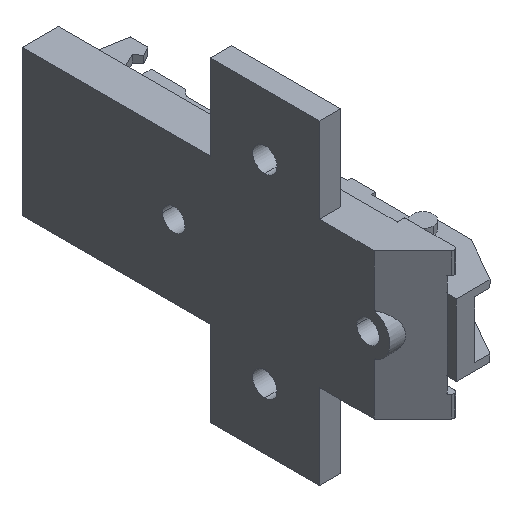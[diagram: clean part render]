
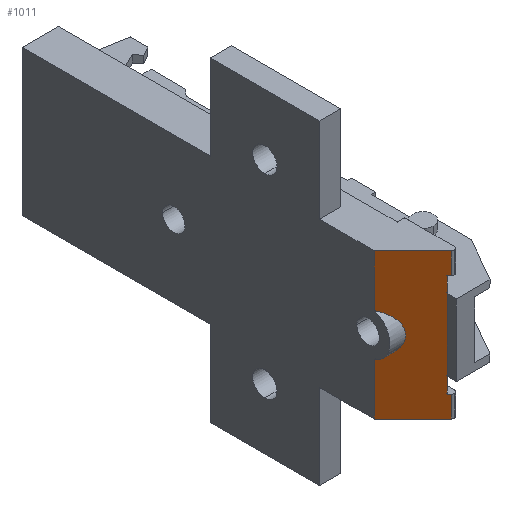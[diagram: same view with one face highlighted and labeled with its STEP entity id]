
A CAD part, isometric view. The second image highlights one B-rep face of the part: STEP entity #1011.
In plain terms, the highlighted planar face has unit normal (-0.707, -0.707, 0).
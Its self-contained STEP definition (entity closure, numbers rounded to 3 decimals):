
#99 = LINE ( 'NONE', #101, #2758 ) ;
#101 = CARTESIAN_POINT ( 'NONE',  ( 6., -24.007, -12. ) ) ;
#102 = DIRECTION ( 'NONE',  ( 0., 0., 1. ) ) ;
#131 =( BOUNDED_CURVE ( )  B_SPLINE_CURVE ( 3, ( #995, #1004, #1191, #1192 ),
 .UNSPECIFIED., .F., .T. ) 
 B_SPLINE_CURVE_WITH_KNOTS ( ( 4, 4 ),
 ( 1.854, 4.429 ),
 .UNSPECIFIED. ) 
 CURVE ( )  GEOMETRIC_REPRESENTATION_ITEM ( )  RATIONAL_B_SPLINE_CURVE ( ( 1., 0.52, 0.52, 1. ) ) 
 REPRESENTATION_ITEM ( '' )  );
#173 = EDGE_CURVE ( 'NONE', #570, #590, #99, .T. ) ;
#185 = EDGE_CURVE ( 'NONE', #1767, #650, #1075, .T. ) ;
#201 = EDGE_CURVE ( 'NONE', #648, #657, #1116, .T. ) ;
#203 = EDGE_CURVE ( 'NONE', #575, #643, #1122, .T. ) ;
#232 = EDGE_CURVE ( 'NONE', #540, #648, #3180, .T. ) ;
#259 = VECTOR ( 'NONE', #993, 1000. ) ;
#267 = VECTOR ( 'NONE', #966, 1000. ) ;
#311 = VECTOR ( 'NONE', #1201, 1000. ) ;
#345 = VECTOR ( 'NONE', #934, 1000. ) ;
#443 = VECTOR ( 'NONE', #1198, 1000. ) ;
#515 = VECTOR ( 'NONE', #1195, 1000. ) ;
#540 = VERTEX_POINT ( 'NONE', #3193 ) ;
#570 = VERTEX_POINT ( 'NONE', #3223 ) ;
#575 = VERTEX_POINT ( 'NONE', #3228 ) ;
#590 = VERTEX_POINT ( 'NONE', #3243 ) ;
#594 = VERTEX_POINT ( 'NONE', #3247 ) ;
#643 = VERTEX_POINT ( 'NONE', #3296 ) ;
#648 = VERTEX_POINT ( 'NONE', #3301 ) ;
#650 = VERTEX_POINT ( 'NONE', #3303 ) ;
#657 = VERTEX_POINT ( 'NONE', #3310 ) ;
#932 = LINE ( 'NONE', #933, #345 ) ;
#933 = CARTESIAN_POINT ( 'NONE',  ( 6.347, -24.354, -12. ) ) ;
#934 = DIRECTION ( 'NONE',  ( 0., 0., 1. ) ) ;
#954 = LINE ( 'NONE', #965, #267 ) ;
#965 = CARTESIAN_POINT ( 'NONE',  ( 6.347, -24.354, -12. ) ) ;
#966 = DIRECTION ( 'NONE',  ( 0., 0., 1. ) ) ;
#968 = LINE ( 'NONE', #992, #259 ) ;
#992 = CARTESIAN_POINT ( 'NONE',  ( 6.347, -24.354, 12. ) ) ;
#993 = DIRECTION ( 'NONE',  ( -0.707, 0.707, 0. ) ) ;
#995 = CARTESIAN_POINT ( 'NONE',  ( 0., -18.007, 3.456 ) ) ;
#1004 = CARTESIAN_POINT ( 'NONE',  ( 4.256, -22.263, 2.216 ) ) ;
#1011 = ADVANCED_FACE ( 'NONE', ( #2785 ), #2779, .F. ) ;
#1075 = LINE ( 'NONE', #1076, #2425 ) ;
#1076 = CARTESIAN_POINT ( 'NONE',  ( 6., -24.007, -12. ) ) ;
#1077 = DIRECTION ( 'NONE',  ( 0., 0., 1. ) ) ;
#1116 = LINE ( 'NONE', #1124, #2465 ) ;
#1119 = CARTESIAN_POINT ( 'NONE',  ( 0., -18.007, -12. ) ) ;
#1122 = LINE ( 'NONE', #1119, #2477 ) ;
#1124 = CARTESIAN_POINT ( 'NONE',  ( 0., -18.007, -12. ) ) ;
#1125 = DIRECTION ( 'NONE',  ( 0., 0., 1. ) ) ;
#1131 = DIRECTION ( 'NONE',  ( 0., 0., 1. ) ) ;
#1191 = CARTESIAN_POINT ( 'NONE',  ( 4.256, -22.263, -2.216 ) ) ;
#1192 = CARTESIAN_POINT ( 'NONE',  ( 0., -18.007, -3.456 ) ) ;
#1193 = LINE ( 'NONE', #1194, #515 ) ;
#1194 = CARTESIAN_POINT ( 'NONE',  ( 6.347, -24.354, -8.45 ) ) ;
#1195 = DIRECTION ( 'NONE',  ( -0.707, 0.707, 0. ) ) ;
#1196 = LINE ( 'NONE', #1197, #443 ) ;
#1197 = CARTESIAN_POINT ( 'NONE',  ( 6., -24.007, -12. ) ) ;
#1198 = DIRECTION ( 'NONE',  ( 0., 0., -1. ) ) ;
#1199 = LINE ( 'NONE', #1200, #311 ) ;
#1200 = CARTESIAN_POINT ( 'NONE',  ( 6.347, -24.354, 8.45 ) ) ;
#1201 = DIRECTION ( 'NONE',  ( 0.707, -0.707, 0. ) ) ;
#1355 = CARTESIAN_POINT ( 'NONE',  ( 6.347, -24.354, 12. ) ) ;
#1366 = CARTESIAN_POINT ( 'NONE',  ( 6.347, -24.354, 8.45 ) ) ;
#1372 = CARTESIAN_POINT ( 'NONE',  ( 6., -24.007, 5.9 ) ) ;
#1527 = EDGE_CURVE ( 'NONE', #1761, #1750, #932, .T. ) ;
#1538 = EDGE_CURVE ( 'NONE', #540, #594, #954, .T. ) ;
#1547 = EDGE_CURVE ( 'NONE', #1750, #643, #968, .T. ) ;
#1551 = EDGE_CURVE ( 'NONE', #575, #657, #131, .T. ) ;
#1552 = EDGE_CURVE ( 'NONE', #594, #570, #1193, .T. ) ;
#1553 = EDGE_CURVE ( 'NONE', #1767, #590, #1196, .T. ) ;
#1554 = EDGE_CURVE ( 'NONE', #650, #1761, #1199, .T. ) ;
#1750 = VERTEX_POINT ( 'NONE', #1355 ) ;
#1761 = VERTEX_POINT ( 'NONE', #1366 ) ;
#1767 = VERTEX_POINT ( 'NONE', #1372 ) ;
#2308 = EDGE_LOOP ( 'NONE', ( #3086, #2861, #3043, #3016, #3109, #2987, #3002, #3004, #3105, #3037, #3039, #3100 ) ) ;
#2425 = VECTOR ( 'NONE', #1077, 1000. ) ;
#2447 = AXIS2_PLACEMENT_3D ( 'NONE', #2781, #2787, #2788 ) ;
#2460 = VECTOR ( 'NONE', #3183, 1000. ) ;
#2465 = VECTOR ( 'NONE', #1125, 1000. ) ;
#2477 = VECTOR ( 'NONE', #1131, 1000. ) ;
#2758 = VECTOR ( 'NONE', #102, 1000. ) ;
#2779 = PLANE ( 'NONE',  #2447 ) ;
#2781 = CARTESIAN_POINT ( 'NONE',  ( 6.347, -24.354, -12. ) ) ;
#2785 = FACE_OUTER_BOUND ( 'NONE', #2308, .T. ) ;
#2787 = DIRECTION ( 'NONE',  ( 0.707, 0.707, 0. ) ) ;
#2788 = DIRECTION ( 'NONE',  ( 0.707, -0.707, 0. ) ) ;
#2861 = ORIENTED_EDGE ( 'NONE', *, *, #1551, .T. ) ;
#2987 = ORIENTED_EDGE ( 'NONE', *, *, #1552, .T. ) ;
#3002 = ORIENTED_EDGE ( 'NONE', *, *, #173, .T. ) ;
#3004 = ORIENTED_EDGE ( 'NONE', *, *, #1553, .F. ) ;
#3016 = ORIENTED_EDGE ( 'NONE', *, *, #232, .F. ) ;
#3037 = ORIENTED_EDGE ( 'NONE', *, *, #1554, .T. ) ;
#3039 = ORIENTED_EDGE ( 'NONE', *, *, #1527, .T. ) ;
#3043 = ORIENTED_EDGE ( 'NONE', *, *, #201, .F. ) ;
#3086 = ORIENTED_EDGE ( 'NONE', *, *, #203, .F. ) ;
#3100 = ORIENTED_EDGE ( 'NONE', *, *, #1547, .T. ) ;
#3105 = ORIENTED_EDGE ( 'NONE', *, *, #185, .T. ) ;
#3109 = ORIENTED_EDGE ( 'NONE', *, *, #1538, .T. ) ;
#3180 = LINE ( 'NONE', #3182, #2460 ) ;
#3182 = CARTESIAN_POINT ( 'NONE',  ( 6.347, -24.354, -12. ) ) ;
#3183 = DIRECTION ( 'NONE',  ( -0.707, 0.707, 0. ) ) ;
#3193 = CARTESIAN_POINT ( 'NONE',  ( 6.347, -24.354, -12. ) ) ;
#3223 = CARTESIAN_POINT ( 'NONE',  ( 6., -24.007, -8.45 ) ) ;
#3228 = CARTESIAN_POINT ( 'NONE',  ( 0., -18.007, 3.456 ) ) ;
#3243 = CARTESIAN_POINT ( 'NONE',  ( 6., -24.007, -5.9 ) ) ;
#3247 = CARTESIAN_POINT ( 'NONE',  ( 6.347, -24.354, -8.45 ) ) ;
#3296 = CARTESIAN_POINT ( 'NONE',  ( 0., -18.007, 12. ) ) ;
#3301 = CARTESIAN_POINT ( 'NONE',  ( 0., -18.007, -12. ) ) ;
#3303 = CARTESIAN_POINT ( 'NONE',  ( 6., -24.007, 8.45 ) ) ;
#3310 = CARTESIAN_POINT ( 'NONE',  ( 0., -18.007, -3.456 ) ) ;
